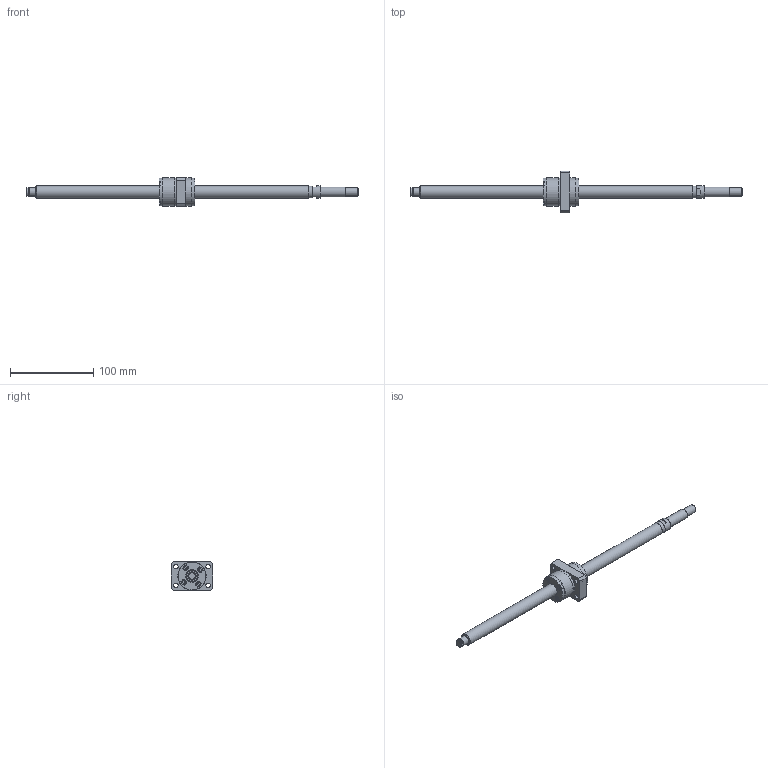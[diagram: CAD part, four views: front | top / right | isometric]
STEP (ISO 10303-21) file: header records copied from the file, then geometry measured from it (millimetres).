
FILE_DESCRIPTION(/* description */ ('STEP AP214'),/* implementation_level */ '2;1');
FILE_NAME(/* name */ 'SG1510-328R400C5B0X(148.5)',/* time_stamp */ '2026-07-24T21:02:59+02:00',/* author */ ('License CC BY-ND 4.0'),/* organization */ ('CADENAS'),/* preprocessor_version */ 'ST-DEVELOPER v20',/* originating_system */ 'PARTsolutions',/* authorisation */ ' ');
FILE_SCHEMA (('AUTOMOTIVE_DESIGN {1 0 10303 214 3 1 1}'));
Length unit declared in the file: millimetre
Products named in the file (3): SG1510-328R400C5B0X(148.5); SG1510-328R400C5B_shaft; SG1510 C5_nut
Assembly tree (2 placements, depth 2):
  SG1510-328R400C5B0X(148.5)
    SG1510-328R400C5B_shaft
    SG1510 C5_nut
Bounding box: 400 x 50 x 34 mm (x, y, z)
Volume: 103189.2 mm3; surface area: 29940.9 mm2
Topology: 2 solids, 2 shells, 121 faces, 268 edges, 173 vertices
Faces by surface type: plane 76, cylinder 36, cone 8, torus 1
Full cylindrical faces by diameter (mm): 2 x1, 4.917 x1, 5.5 x8, 9.5 x4, 9.6 x1, 10 x3, 12 x1, 14.387 x1, 15 x3, 33.5 x3, 34 x2
Entity records: 3234 total; most frequent: DIRECTION 568, CARTESIAN_POINT 532, ORIENTED_EDGE 456, EDGE_CURVE 228, AXIS2_PLACEMENT_3D 217, EDGE_LOOP 192, FACE_BOUND 192, VERTEX_POINT 170
